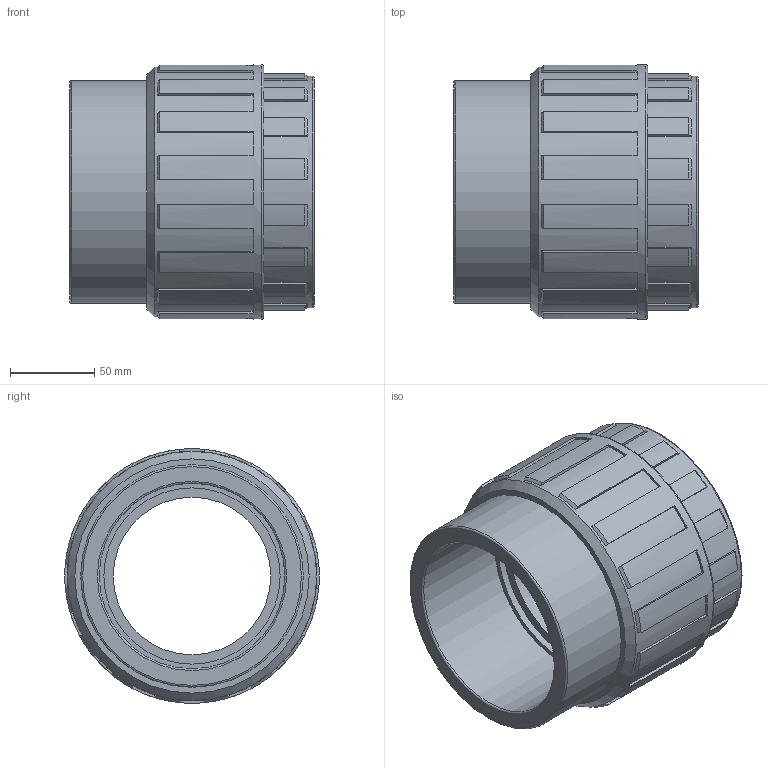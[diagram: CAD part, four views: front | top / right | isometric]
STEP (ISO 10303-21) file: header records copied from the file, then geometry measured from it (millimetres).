
FILE_DESCRIPTION(/* description */ ('PLASSON UNION+O RING THR-CEM 110-4'),/* implementation_level */ '2;1');
FILE_NAME(/* name */ 'C:\Dropbox\KIMPROJECTS-Inventor\99-16-3568-Processing\PVC Catalog 2017\050802\050802110040.ipt.stp',/* time_stamp */ '2017-12-07T15:58:22+02:00',/* author */ ('KIM'),/* organization */ (''),/* preprocessor_version */ 'ST-DEVELOPER v15.6',/* originating_system */ 'Autodesk Inventor 2015',/* authorisation */ '');
FILE_SCHEMA (('AUTOMOTIVE_DESIGN { 1 0 10303 214 3 1 1 }'));
Length unit declared in the file: millimetre
Products named in the file (1): 050802110040
Bounding box: 145 x 151 x 151 mm (x, y, z)
Volume: 1019571.5 mm3; surface area: 136069.1 mm2
Topology: 1 solids, 1 shells, 149 faces, 420 edges, 278 vertices
Faces by surface type: plane 87, cone 33, cylinder 24, torus 5
Full cylindrical faces by diameter (mm): 93.5 x1, 104.5 x1, 110 x1, 110.072 x1, 132 x1, 137.5 x1, 147.98 x1, 151 x1
Entity records: 4784 total; most frequent: DIRECTION 850, CARTESIAN_POINT 828, ORIENTED_EDGE 806, EDGE_CURVE 403, AXIS2_PLACEMENT_3D 297, VERTEX_POINT 275, LINE 256, VECTOR 256
